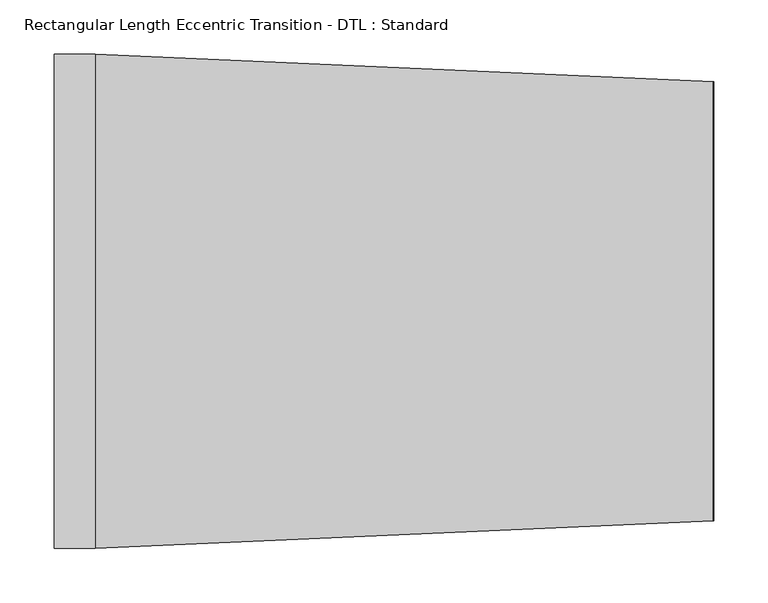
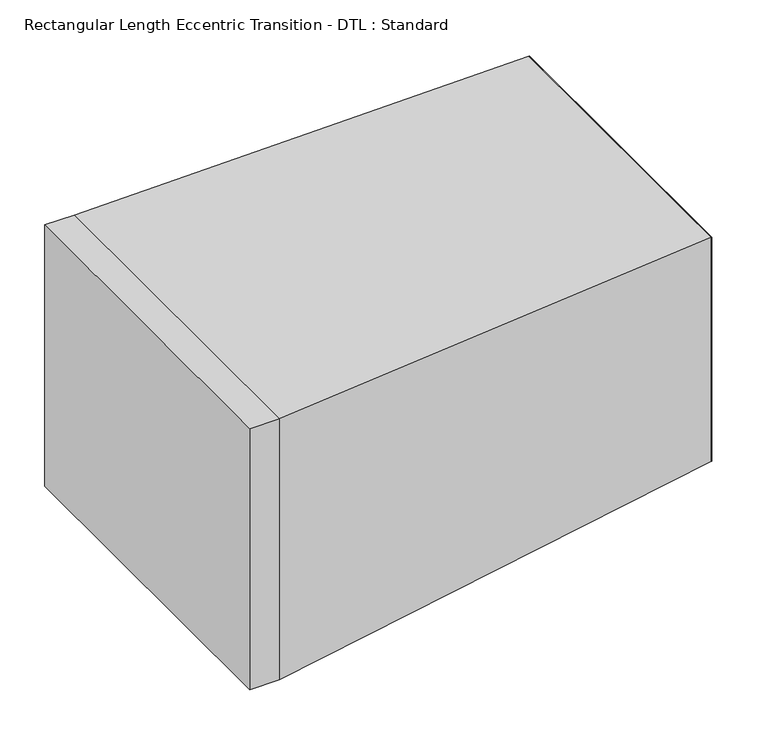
"""IFC4 building model written with IfcOpenShell, lengths in millimetres: duct fitting geometry, Rectangular Length Eccentric Transition - DTL : Standard."""

import ifcopenshell
import ifcopenshell.guid

model = None  # the IFC model being written
_history = None  # IfcOwnerHistory: only IFC2X3 demands one
_inside = {}  # id of a spatial element -> (the spatial element, [elements in it])
_under = {}  # id of a project, library or spatial element -> (it, [spatial elements below it])
_declared = {}  # id of a project -> (the project, [libraries it declares])
_typed = {}  # id of a type object -> (the type object, [elements of that type])
_made_of = {}  # id of a material, layer set ... -> (it, [elements and type objects made of it])


def new_model(schema):
    """Start an empty IFC model of exactly this schema.

    Asked for "IFC4X3", IfcOpenShell would pick the latest addendum, in which some entities
    have other attributes; the version numbers below select the first issue.
    IFC2X3 requires an IfcOwnerHistory on every rooted entity: one is made here for all.
    """
    global model, _history
    if schema == "IFC4X3":
        model = ifcopenshell.file(schema_version=(4, 3, 0, 0))
    else:
        model = ifcopenshell.file(schema=schema)
    _inside.clear()
    _under.clear()
    _declared.clear()
    _typed.clear()
    _made_of.clear()
    _history = None
    if model.schema == "IFC2X3":
        org = make("IfcOrganization", Name="unknown")
        user = make(
            "IfcPersonAndOrganization",
            ThePerson=make("IfcPerson", FamilyName="unknown"),
            TheOrganization=org,
        )
        app = make(
            "IfcApplication",
            ApplicationDeveloper=org,
            Version="unknown",
            ApplicationFullName="unknown",
            ApplicationIdentifier="unknown",
        )
        _history = make(
            "IfcOwnerHistory",
            OwningUser=user,
            OwningApplication=app,
            ChangeAction="ADDED",
            CreationDate=0,
        )
    return model


def make(cls, **values):
    """One entity of the class cls with the attributes given. An attribute that is None is left unset."""
    return model.create_entity(
        cls, **{name: value for name, value in values.items() if value is not None}
    )


def rooted(cls, **values):
    """An entity with a GlobalId (a new one), such as an element, a storey or a relation."""
    return make(cls, GlobalId=ifcopenshell.guid.new(), OwnerHistory=_history, **values)


def si_unit(unit_type, name, prefix=None):
    """IfcSIUnit, for example si_unit("LENGTHUNIT", "METRE", prefix="MILLI")."""
    return make("IfcSIUnit", UnitType=unit_type, Prefix=prefix, Name=name)


def assignment(units):
    """IfcUnitAssignment: the units of a project."""
    return None if units is None else make("IfcUnitAssignment", Units=units)


def point(xyz):
    """IfcCartesianPoint."""
    return None if xyz is None else make("IfcCartesianPoint", Coordinates=xyz)


def direction(xyz):
    """IfcDirection."""
    return None if xyz is None else make("IfcDirection", DirectionRatios=xyz)


def frame(location, z_axis=None, x_axis=None):
    """IfcAxis2Placement3D, a coordinate frame: its origin and axes. An axis left out is left unset."""
    return make(
        "IfcAxis2Placement3D",
        Location=point(location),
        Axis=direction(z_axis),
        RefDirection=direction(x_axis),
    )


def origin():
    """The frame at (0, 0, 0) with its axes left unset."""
    return frame((0.0, 0.0, 0.0))


def place(relative_to, where):
    """IfcLocalPlacement: puts the frame where relative to a parent placement (None: the world)."""
    return make(
        "IfcLocalPlacement", PlacementRelTo=relative_to, RelativePlacement=where
    )


def context(
    kind, dimensions, precision=None, world=None, true_north=None, identifier=None
):
    """IfcGeometricRepresentationContext, for example the 3D "Model" context."""
    return make(
        "IfcGeometricRepresentationContext",
        ContextIdentifier=identifier,
        ContextType=kind,
        CoordinateSpaceDimension=dimensions,
        Precision=precision,
        WorldCoordinateSystem=world,
        TrueNorth=true_north,
    )


def project(units=None, contexts=None):
    """IfcProject with its units and contexts."""
    return rooted(
        "IfcProject",
        Name="project",
        RepresentationContexts=contexts,
        UnitsInContext=assignment(units),
    )


def spatial(cls, under=None, at=None, **own):
    """A site, building, storey or space (cls), placed at a placement, below another one or the project."""
    s = rooted(cls, ObjectPlacement=at, **own)
    if under is not None:
        _under.setdefault(under.id(), (under, []))[1].append(s)
    return s


def polyline(points):
    """IfcPolyline through the points."""
    return make("IfcPolyline", Points=[point(p) for p in points])


def outline(outer, holes=None, kind="AREA"):
    """IfcArbitraryClosedProfileDef: a profile drawn as a closed curve; with holes, ...WithVoids."""
    if holes is None:
        return make("IfcArbitraryClosedProfileDef", ProfileType=kind, OuterCurve=outer)
    return make(
        "IfcArbitraryProfileDefWithVoids",
        ProfileType=kind,
        OuterCurve=outer,
        InnerCurves=holes,
    )


def extrude(swept, where, along, depth):
    """IfcExtrudedAreaSolid: the profile swept, set in the frame where, extruded along a direction by depth."""
    return make(
        "IfcExtrudedAreaSolid",
        SweptArea=swept,
        Position=where,
        ExtrudedDirection=direction(along),
        Depth=depth,
    )


def faces_of(points, faces, orient=None, outer=None):
    """IfcFace entities. A face is a list of loops; a loop is a list of indices into points, from 0.

    orient and outer hold one flag for each loop. By default every Orientation is true, the
    first loop of a face is its IfcFaceOuterBound and the others are IfcFaceBound.
    """
    made = []
    for i, loops in enumerate(faces):
        bounds = []
        for j, loop in enumerate(loops):
            is_outer = j == 0 if outer is None else outer[i][j]
            bounds.append(
                make(
                    "IfcFaceOuterBound" if is_outer else "IfcFaceBound",
                    Bound=make("IfcPolyLoop", Polygon=[points[k] for k in loop]),
                    Orientation=True if orient is None else orient[i][j],
                )
            )
        made.append(make("IfcFace", Bounds=bounds))
    return made


def faceted_brep(points, faces, orient=None, outer=None, voids=None):
    """IfcFacetedBrep: a solid bounded by flat faces; with voids (closed shells), ...WithVoids."""
    shared = [point(p) for p in points]
    hull = make("IfcClosedShell", CfsFaces=faces_of(shared, faces, orient, outer))
    if voids is None:
        return make("IfcFacetedBrep", Outer=hull)
    return make(
        "IfcFacetedBrepWithVoids",
        Outer=hull,
        Voids=[
            make(cls, CfsFaces=faces_of(shared, fs, o, b)) for cls, fs, o, b in voids
        ],
    )


def shape(context_of_items, identifier, shape_type, items):
    """IfcShapeRepresentation: the items that make up one representation, for example the "Body"."""
    return make(
        "IfcShapeRepresentation",
        ContextOfItems=context_of_items,
        RepresentationIdentifier=identifier,
        RepresentationType=shape_type,
        Items=items,
    )


def source(mapping_origin, context_of_items, identifier, shape_type, items):
    """IfcRepresentationMap: a shape defined once, which mapped items show again and again."""
    return make(
        "IfcRepresentationMap",
        MappingOrigin=mapping_origin,
        MappedRepresentation=shape(context_of_items, identifier, shape_type, items),
    )


def transform(
    local_origin,
    x_axis=None,
    y_axis=None,
    z_axis=None,
    scale=None,
    scale2=None,
    scale3=None,
    uniform=True,
):
    """IfcCartesianTransformationOperator3D, or its non-uniform kind. x_axis, y_axis, z_axis: its Axis1, 2, 3."""
    if uniform:
        return make(
            "IfcCartesianTransformationOperator3D",
            Axis1=direction(x_axis),
            Axis2=direction(y_axis),
            LocalOrigin=point(local_origin),
            Scale=scale,
            Axis3=direction(z_axis),
        )
    return make(
        "IfcCartesianTransformationOperator3DnonUniform",
        Axis1=direction(x_axis),
        Axis2=direction(y_axis),
        LocalOrigin=point(local_origin),
        Scale=scale,
        Axis3=direction(z_axis),
        Scale2=scale2,
        Scale3=scale3,
    )


def mapped(mapping_source, mapping_target):
    """IfcMappedItem: shows the shape of a source again, moved by a transform."""
    return make(
        "IfcMappedItem", MappingSource=mapping_source, MappingTarget=mapping_target
    )


def made_of(thing, what):
    """Note that an element or type object is made of a material, layer set ...; save() writes the relation."""
    if what is not None:
        _made_of.setdefault(what.id(), (what, []))[1].append(thing)
    return thing


def element(
    cls,
    number,
    at=None,
    inside=None,
    cuts=None,
    type_object=None,
    material=None,
    context=None,
    identifier="Body",
    shape_type=None,
    held_by="IfcProductDefinitionShape",
    body=None,
    shapes=None,
    **own,
):
    """One element of the class cls, such as IfcWall. Its Tag is "e" and its number.

    at: its placement. inside: the storey or other place that contains it. cuts: it is an
    opening in that element (IfcRelVoidsElement). A single representation is given by context,
    identifier, shape_type and body (its items); several are given by shapes. held_by: the class
    of the entity that holds the representations. save() writes the other relations.
    """
    e = rooted(cls, Tag="e%d" % number, ObjectPlacement=at, **own)
    if body is not None:
        shapes = [shape(context, identifier, shape_type, body)]
    if shapes is not None:
        e.Representation = make(held_by, Representations=shapes)
    if inside is not None:
        _inside.setdefault(inside.id(), (inside, []))[1].append(e)
    if cuts is not None:
        rooted(
            "IfcRelVoidsElement", RelatingBuildingElement=cuts, RelatedOpeningElement=e
        )
    if type_object is not None:
        _typed.setdefault(type_object.id(), (type_object, []))[1].append(e)
    return made_of(e, material)


def aggregate(whole, parts):
    """IfcRelAggregates: a whole, such as a stair, and the parts it consists of."""
    return rooted("IfcRelAggregates", RelatingObject=whole, RelatedObjects=parts)


def save(model, path):
    """Write the relations noted so far, then the file.

    IfcRelAggregates (storeys below a building ...), IfcRelContainedInSpatialStructure (elements
    in a storey), IfcRelDefinesByType, IfcRelAssociatesMaterial and IfcRelDeclares: one each for
    every whole, place, type object, material and project.
    """
    for whole, parts in _under.values():
        aggregate(whole, parts)
    for where, things in _inside.values():
        rooted(
            "IfcRelContainedInSpatialStructure",
            RelatedElements=things,
            RelatingStructure=where,
        )
    for kind, things in _typed.values():
        rooted("IfcRelDefinesByType", RelatedObjects=things, RelatingType=kind)
    for what, things in _made_of.values():
        rooted("IfcRelAssociatesMaterial", RelatedObjects=things, RelatingMaterial=what)
    for by, libraries in _declared.values():
        rooted("IfcRelDeclares", RelatingContext=by, RelatedDefinitions=libraries)
    model.write(path)


def rectangular_length_eccentric_transition_dtl_standard_3b554a3d(model_context):
    return source(origin(), model_context, "Body", "SolidModel", [
        extrude(outline(polyline([(609.6, 203.2), (609.6, -203.2), (608.80625, -203.2), (608.80625, 203.2), (609.6, 203.2)])), frame((0.0, 0.0, -95.25), z_axis=(0.0, 0.0, 1.0), x_axis=(1.0, 0.0, 0.0)), (0.0, 0.0, 1.0), 304.8),
        extrude(outline(polyline([(38.1, 228.6), (38.1, -228.6), (0.0, -228.6), (0.0, 228.6), (38.1, 228.6)])), frame((0.0, 0.0, -177.8), z_axis=(0.0, 0.0, 1.0), x_axis=(1.0, 0.0, 0.0)), (0.0, 0.0, 1.0), 355.6),
        faceted_brep([(38.1, 228.6, 177.8), (38.1, 228.6, -177.8), (38.1, -228.6, -177.8), (38.1, -228.6, 177.8), (608.80625, 203.2, 209.55), (608.80625, -203.2, 209.55), (608.80625, -203.2, -95.25), (608.80625, 203.2, -95.25)], [[[0, 1, 2, 3]], [[4, 5, 6, 7]], [[4, 7, 1, 0]], [[7, 6, 2, 1]], [[6, 5, 3, 2]], [[5, 4, 0, 3]]]),
    ])


if __name__ == "__main__":
    model = new_model("IFC4")
    model_context = context("Model", 3, world=origin())
    ifc_project = project(units=[si_unit("LENGTHUNIT", "METRE", prefix="MILLI")], contexts=[model_context])
    site = spatial("IfcSite", under=ifc_project)
    building = spatial("IfcBuilding", under=site)
    placement = place(None, origin())
    rectangular_length_eccentric_transition_dtl_standard_shape = rectangular_length_eccentric_transition_dtl_standard_3b554a3d(model_context)
    element("IfcDuctFitting", 1, ObjectType="Rectangular Length Eccentric Transition - DTL : Standard", at=placement, inside=building, context=model_context, shape_type="MappedRepresentation", body=[
        mapped(rectangular_length_eccentric_transition_dtl_standard_shape, transform((0.0, 0.0, 0.0), x_axis=(1.0, 0.0, 0.0), y_axis=(0.0, 1.0, 0.0), z_axis=(0.0, 0.0, 1.0))),
    ])
    save(model, "model.ifc")
